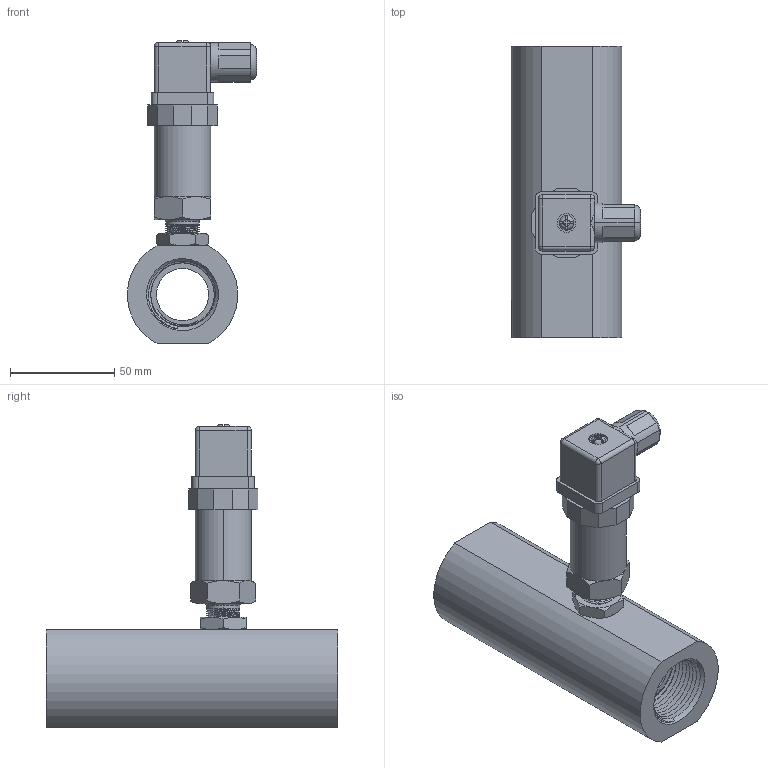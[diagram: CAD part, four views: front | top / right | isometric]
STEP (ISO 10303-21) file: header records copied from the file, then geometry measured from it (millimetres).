
FILE_DESCRIPTION( (''), '2;1');
FILE_NAME( 'QTKB_DN25_female-thread_DIN-plug.step', '2024-10-14T08:17:52+08:00', (''), (''), '', '', '');
FILE_SCHEMA (('AUTOMOTIVE_DESIGN { 1 0 10303 214 3 1 1 1 }'));
Length unit declared in the file: millimetre
Products named in the file (1): QTKB DN25_female-thread_DIN-plug
Bounding box: 61.91 x 140 x 145.5 mm (x, y, z)
Volume: 279374.7 mm3; surface area: 62089.1 mm2
Topology: 5 solids, 6 shells, 384 faces, 1016 edges, 661 vertices
Faces by surface type: plane 245, cylinder 55, cone 40, bspline 36, torus 4, sphere 4
Full cylindrical faces by diameter (mm): 15 x1, 25 x1, 30.5 x2
Entity records: 16042 total; most frequent: CARTESIAN_POINT 6883, ORIENTED_EDGE 1996, DIRECTION 1677, EDGE_CURVE 998, VERTEX_POINT 655, LINE 635, VECTOR 635, AXIS2_PLACEMENT_3D 521
